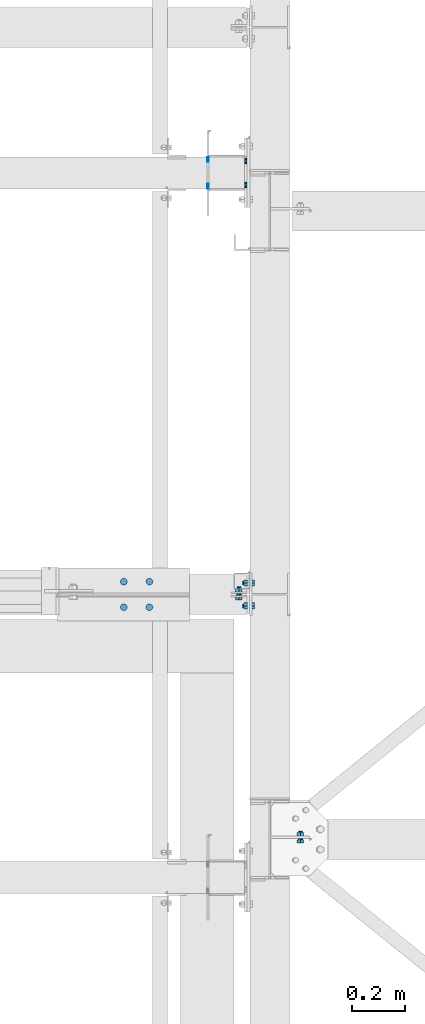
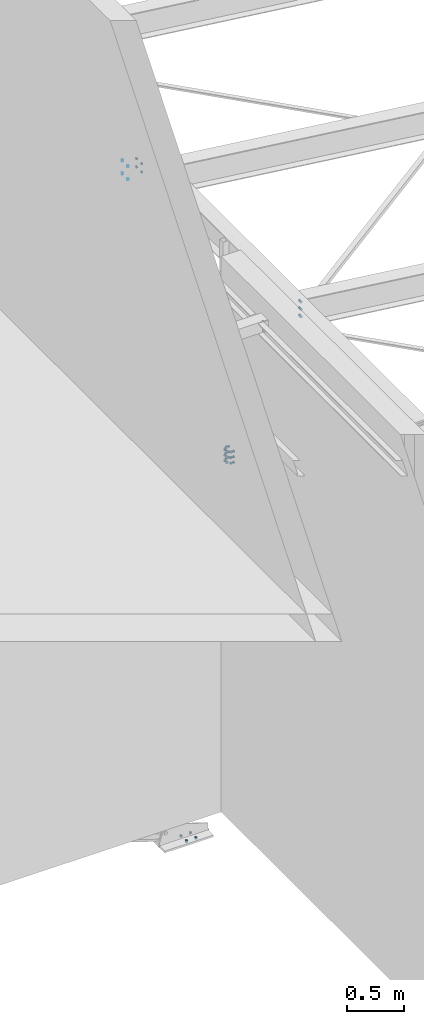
# One storey, part 33 of 3134: 7 mechanical fasteners, 5 elements without a shape of their own.
"""IFC2X3 building model written with IfcOpenShell, lengths in millimetres."""

from ifc_helpers import new_model, si_unit, frame, origin_with_axes, place, context, subcontext, project, spatial, faceted_brep, source, transform, mapped, material, type_object, element, aggregate, save


model = new_model("IFC2X3")

# Units and contexts
model_context = context("Model", 3, precision=1e-05, world=origin_with_axes())
body_context = subcontext(model_context, "Body", "Model", "MODEL_VIEW")
ifc_project = project(units=[si_unit("LENGTHUNIT", "METRE", prefix="MILLI"), si_unit("AREAUNIT", "SQUARE_METRE"), si_unit("VOLUMEUNIT", "CUBIC_METRE"), si_unit("MASSUNIT", "GRAM", prefix="KILO"), si_unit("TIMEUNIT", "SECOND"), si_unit("PLANEANGLEUNIT", "RADIAN"), si_unit("SOLIDANGLEUNIT", "STERADIAN"), si_unit("THERMODYNAMICTEMPERATUREUNIT", "DEGREE_CELSIUS"), si_unit("LUMINOUSINTENSITYUNIT", "LUMEN")], contexts=[model_context])

# Site, building, storey
site_placement = place(None, origin_with_axes())
site = spatial("IfcSite", under=ifc_project, at=site_placement, CompositionType="ELEMENT")
building_placement = place(site_placement, origin_with_axes())
building = spatial("IfcBuilding", under=site, at=building_placement, Name="Undefined", CompositionType="ELEMENT")
storey_placement = place(building_placement, origin_with_axes())
storey = spatial("IfcBuildingStorey", under=building, at=storey_placement, Name="Undefined", CompositionType="ELEMENT", Elevation=0.0)

# Assembly, mechanical fasteners
assembly_1_placement = place(storey_placement, origin_with_axes())
assembly_1 = element("IfcElementAssembly", 1, at=assembly_1_placement, inside=storey, AssemblyPlace="NOTDEFINED", PredefinedType="RIGID_FRAME")
ifc_material = material(Name="8.8")
mechanical_fastener_type = type_object("IfcMechanicalFastenerType", Name="Bolt assembly")
shared_shape_1 = source(origin_with_axes(), body_context, "Body", "Brep", [
    faceted_brep([(9.0, -3.46568413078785e-07, 0.0), (7.79422863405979, -3.46568413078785e-07, 4.50000000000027), (4.49999999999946, -3.46568413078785e-07, 7.79422863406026), (-9.3270238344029e-13, -3.46568413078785e-07, 9.0), (-4.50000000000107, -3.46568413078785e-07, 7.79422863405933), (-7.79422863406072, -3.46568413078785e-07, 4.49999999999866), (-9.0, -3.46568413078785e-07, -1.86540476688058e-12), (-7.79422863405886, -3.46568413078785e-07, -4.50000000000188), (-4.49999999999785, -3.46568413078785e-07, -7.79422863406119), (2.78811514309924e-12, -3.46568413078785e-07, -9.0), (4.50000000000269, -3.46568413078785e-07, -7.7942286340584), (7.79422863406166, -3.46568413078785e-07, -4.49999999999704), (7.79422863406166, 6.1, -4.49999999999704), (4.50000000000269, 6.1, -7.7942286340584), (2.78811514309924e-12, 6.1, -9.0), (-4.49999999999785, 6.1, -7.79422863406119), (-7.79422863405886, 6.1, -4.50000000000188), (-9.0, 6.1, -1.86540476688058e-12), (-7.79422863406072, 6.1, 4.49999999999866), (-4.50000000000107, 6.1, 7.79422863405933), (-9.3270238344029e-13, 6.1, 9.0), (4.49999999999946, 6.1, 7.79422863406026), (7.79422863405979, 6.1, 4.50000000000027), (9.0, 6.1, 0.0)], [[[0, 1, 2, 3, 4, 5, 6, 7, 8, 9, 10, 11]], [[12, 13, 14, 15, 16, 17, 18, 19, 20, 21, 22, 23]], [[0, 23, 22, 1]], [[1, 22, 21, 2]], [[2, 21, 20, 3]], [[3, 20, 19, 4]], [[4, 19, 18, 5]], [[5, 18, 17, 6]], [[6, 17, 16, 7]], [[7, 16, 15, 8]], [[8, 15, 14, 9]], [[9, 14, 13, 10]], [[10, 13, 12, 11]], [[11, 12, 23, 0]]]),
])
mechanical_fastener_1_placement = place(assembly_1_placement, frame((20615.0, 12563.5019072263, 5760.0), z_axis=(0.0, 0.0, 1.0), x_axis=(0.0, -1.0, 0.0)))
mechanical_fastener_1 = element("IfcMechanicalFastener", 2, at=mechanical_fastener_1_placement, type_object=mechanical_fastener_type, material=ifc_material, Name="Bolt assembly", NominalDiameter=16.0, NominalLength=6.0, context=body_context, shape_type="MappedRepresentation", body=[
    mapped(shared_shape_1, transform((0.0, 0.0, -70.0))),
    mapped(shared_shape_1, transform((100.0, 0.0, -70.0))),
    mapped(shared_shape_1, transform((0.0, 0.0, 70.0))),
    mapped(shared_shape_1, transform((100.0, 0.0, 70.0))),
])
shared_shape_2 = source(origin_with_axes(), body_context, "Body", "Brep", [
    faceted_brep([(11.0, 0.0, 0.0), (9.52627944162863, 0.0, 5.50000000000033), (5.49999999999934, 0.0, 9.5262794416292), (-1.13996957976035e-12, 0.0, 11.0), (-5.50000000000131, 0.0, 9.52627944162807), (-9.52627944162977, 0.0, 5.49999999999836), (-11.0, 0.0, -2.27993915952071e-12), (-9.5262794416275, 0.0, -5.5000000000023), (-5.49999999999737, 0.0, -9.52627944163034), (3.40769628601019e-12, 0.0, -11.0), (5.50000000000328, 0.0, -9.52627944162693), (9.52627944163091, 0.0, -5.49999999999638), (9.52627944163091, 10.1, -5.49999999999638), (5.50000000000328, 10.1, -9.52627944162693), (3.40769628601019e-12, 10.1, -11.0), (-5.49999999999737, 10.1, -9.52627944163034), (-9.5262794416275, 10.1, -5.5000000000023), (-11.0, 10.1, -2.27993915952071e-12), (-9.52627944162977, 10.1, 5.49999999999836), (-5.50000000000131, 10.1, 9.52627944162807), (-1.13996957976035e-12, 10.1, 11.0), (5.49999999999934, 10.1, 9.5262794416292), (9.52627944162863, 10.1, 5.50000000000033), (11.0, 10.1, 0.0)], [[[0, 1, 2, 3, 4, 5, 6, 7, 8, 9, 10, 11]], [[12, 13, 14, 15, 16, 17, 18, 19, 20, 21, 22, 23]], [[0, 23, 22, 1]], [[1, 22, 21, 2]], [[2, 21, 20, 3]], [[3, 20, 19, 4]], [[4, 19, 18, 5]], [[5, 18, 17, 6]], [[6, 17, 16, 7]], [[7, 16, 15, 8]], [[8, 15, 14, 9]], [[9, 14, 13, 10]], [[10, 13, 12, 11]], [[11, 12, 23, 0]]]),
])
mechanical_fastener_2_placement = place(assembly_1_placement, frame((20755.0, 12558.5019072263, 5760.0), z_axis=(0.0, 0.0, 1.0), x_axis=(0.0, -1.0, 0.0)))
mechanical_fastener_2 = element("IfcMechanicalFastener", 3, at=mechanical_fastener_2_placement, type_object=mechanical_fastener_type, material=ifc_material, Name="Bolt assembly", NominalDiameter=20.0, NominalLength=10.0, context=body_context, shape_type="MappedRepresentation", body=[
    mapped(shared_shape_2, transform((0.0, 0.0, -45.0))),
    mapped(shared_shape_2, transform((90.0, 0.0, -45.0))),
    mapped(shared_shape_2, transform((0.0, 0.0, 45.0))),
    mapped(shared_shape_2, transform((90.0, 0.0, 45.0))),
])
aggregate(assembly_1, [mechanical_fastener_1, mechanical_fastener_2])

# Assembly, mechanical fastener
assembly_2_placement = place(storey_placement, origin_with_axes())
assembly_2 = element("IfcElementAssembly", 4, at=assembly_2_placement, inside=storey, Name="300", AssemblyPlace="NOTDEFINED", PredefinedType="RIGID_FRAME")
shared_shape_3 = source(origin_with_axes(), body_context, "Body", "Brep", [
    faceted_brep([(13.856406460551, -13.0499999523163, 0.0), (6.92820323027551, -13.0499999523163, 12.0), (-6.92820323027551, -13.0499999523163, 12.0), (-13.856406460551, -13.0499999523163, 1.69692038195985e-15), (-6.92820323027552, -13.0499999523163, -12.0), (6.9282032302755, -13.0499999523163, -12.0), (6.9282032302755, -3.04999995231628, -12.0), (-6.92820323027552, -3.04999995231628, -12.0), (-13.856406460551, -3.04999995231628, 1.69692038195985e-15), (-6.92820323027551, -3.04999995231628, 12.0), (6.92820323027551, -3.04999995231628, 12.0), (13.856406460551, -3.04999995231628, 0.0), (8.0, -3.04999995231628, 0.0), (6.92820323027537, -3.04999995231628, 4.00000000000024), (3.99999999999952, -3.04999995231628, 6.92820323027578), (-8.29068785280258e-13, -3.04999995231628, 8.0), (-4.00000000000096, -3.04999995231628, 6.92820323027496), (-6.9282032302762, -3.04999995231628, 3.99999999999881), (-8.0, -3.04999995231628, -1.65813757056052e-12), (-6.92820323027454, -3.04999995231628, -4.00000000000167), (-3.99999999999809, -3.04999995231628, -6.92820323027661), (2.47832457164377e-12, -3.04999995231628, -8.0), (4.00000000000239, -3.04999995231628, -6.92820323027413), (6.92820323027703, -3.04999995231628, -3.99999999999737), (6.92820323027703, 31.9500000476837, -3.99999999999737), (4.00000000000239, 31.9500000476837, -6.92820323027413), (2.47832457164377e-12, 31.9500000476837, -8.0), (-3.99999999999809, 31.9500000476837, -6.92820323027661), (-6.92820323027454, 31.9500000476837, -4.00000000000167), (-8.0, 31.9500000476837, -1.65813757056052e-12), (-6.9282032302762, 31.9500000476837, 3.99999999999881), (-4.00000000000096, 31.9500000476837, 6.92820323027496), (-8.29068785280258e-13, 31.9500000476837, 8.0), (3.99999999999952, 31.9500000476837, 6.92820323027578), (6.92820323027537, 31.9500000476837, 4.00000000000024), (8.0, 31.9500000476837, 0.0), (13.856406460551, 13.0500000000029, 0.0), (6.92820323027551, 13.0500000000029, 12.0), (-6.92820323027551, 13.0500000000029, 12.0), (-13.856406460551, 13.0500000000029, 1.69692038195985e-15), (-6.92820323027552, 13.0500000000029, -12.0), (6.9282032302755, 13.0500000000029, -12.0), (6.9282032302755, 26.0500000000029, -12.0), (-6.92820323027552, 26.0500000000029, -12.0), (-13.856406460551, 26.0500000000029, 1.69692038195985e-15), (-6.92820323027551, 26.0500000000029, 12.0), (6.92820323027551, 26.0500000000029, 12.0), (13.856406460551, 26.0500000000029, 0.0)], [[[0, 1, 2, 3, 4, 5]], [[6, 7, 8, 9, 10, 11]], [[0, 11, 10, 1]], [[1, 10, 9, 2]], [[2, 9, 8, 3]], [[3, 8, 7, 4]], [[4, 7, 6, 5]], [[5, 6, 11, 0]], [[12, 13, 14, 15, 16, 17, 18, 19, 20, 21, 22, 23]], [[24, 25, 26, 27, 28, 29, 30, 31, 32, 33, 34, 35]], [[12, 35, 34, 13]], [[13, 34, 33, 14]], [[14, 33, 32, 15]], [[15, 32, 31, 16]], [[16, 31, 30, 17]], [[17, 30, 29, 18]], [[18, 29, 28, 19]], [[19, 28, 27, 20]], [[20, 27, 26, 21]], [[21, 26, 25, 22]], [[22, 25, 24, 23]], [[23, 24, 35, 12]], [[36, 37, 38, 39, 40, 41]], [[42, 43, 44, 45, 46, 47]], [[36, 47, 46, 37]], [[37, 46, 45, 38]], [[38, 45, 44, 39]], [[39, 44, 43, 40]], [[40, 43, 42, 41]], [[41, 42, 47, 36]]]),
    faceted_brep([(9.0, 2.95000000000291, 0.0), (7.79422863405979, 2.95000000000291, 4.50000000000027), (4.49999999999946, 2.95000000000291, 7.79422863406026), (-9.3270238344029e-13, 2.95000000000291, 9.0), (-4.50000000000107, 2.95000000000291, 7.79422863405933), (-7.79422863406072, 2.95000000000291, 4.49999999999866), (-9.0, 2.95000000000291, -1.86540476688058e-12), (-7.79422863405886, 2.95000000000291, -4.50000000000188), (-4.49999999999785, 2.95000000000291, -7.79422863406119), (2.78811514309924e-12, 2.95000000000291, -9.0), (4.50000000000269, 2.95000000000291, -7.7942286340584), (7.79422863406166, 2.95000000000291, -4.49999999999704), (7.79422863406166, 13.0500000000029, -4.49999999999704), (4.50000000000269, 13.0500000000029, -7.7942286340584), (2.78811514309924e-12, 13.0500000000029, -9.0), (-4.49999999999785, 13.0500000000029, -7.79422863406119), (-7.79422863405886, 13.0500000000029, -4.50000000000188), (-9.0, 13.0500000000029, -1.86540476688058e-12), (-7.79422863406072, 13.0500000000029, 4.49999999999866), (-4.50000000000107, 13.0500000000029, 7.79422863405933), (-9.3270238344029e-13, 13.0500000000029, 9.0), (4.49999999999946, 13.0500000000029, 7.79422863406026), (7.79422863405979, 13.0500000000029, 4.50000000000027), (9.0, 13.0500000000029, 0.0), (9.0, -2.94999995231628, 0.0), (7.79422863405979, -2.94999995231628, 4.50000000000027), (4.49999999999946, -2.94999995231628, 7.79422863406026), (-9.3270238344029e-13, -2.94999995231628, 9.0), (-4.50000000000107, -2.94999995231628, 7.79422863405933), (-7.79422863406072, -2.94999995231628, 4.49999999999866), (-9.0, -2.94999995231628, -1.86540476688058e-12), (-7.79422863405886, -2.94999995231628, -4.50000000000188), (-4.49999999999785, -2.94999995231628, -7.79422863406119), (2.78811514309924e-12, -2.94999995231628, -9.0), (4.50000000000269, -2.94999995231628, -7.7942286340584), (7.79422863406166, -2.94999995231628, -4.49999999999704), (7.79422863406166, 3.14999995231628, -4.49999999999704), (4.50000000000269, 3.14999995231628, -7.7942286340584), (2.78811514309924e-12, 3.14999995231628, -9.0), (-4.49999999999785, 3.14999995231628, -7.79422863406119), (-7.79422863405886, 3.14999995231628, -4.50000000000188), (-9.0, 3.14999995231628, -1.86540476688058e-12), (-7.79422863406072, 3.14999995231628, 4.49999999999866), (-4.50000000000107, 3.14999995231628, 7.79422863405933), (-9.3270238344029e-13, 3.14999995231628, 9.0), (4.49999999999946, 3.14999995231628, 7.79422863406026), (7.79422863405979, 3.14999995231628, 4.50000000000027), (9.0, 3.14999995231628, 0.0)], [[[0, 1, 2, 3, 4, 5, 6, 7, 8, 9, 10, 11]], [[12, 13, 14, 15, 16, 17, 18, 19, 20, 21, 22, 23]], [[0, 23, 22, 1]], [[1, 22, 21, 2]], [[2, 21, 20, 3]], [[3, 20, 19, 4]], [[4, 19, 18, 5]], [[5, 18, 17, 6]], [[6, 17, 16, 7]], [[7, 16, 15, 8]], [[8, 15, 14, 9]], [[9, 14, 13, 10]], [[10, 13, 12, 11]], [[11, 12, 23, 0]], [[24, 25, 26, 27, 28, 29, 30, 31, 32, 33, 34, 35]], [[36, 37, 38, 39, 40, 41, 42, 43, 44, 45, 46, 47]], [[24, 47, 46, 25]], [[25, 46, 45, 26]], [[26, 45, 44, 27]], [[27, 44, 43, 28]], [[28, 43, 42, 29]], [[29, 42, 41, 30]], [[30, 41, 40, 31]], [[31, 40, 39, 32]], [[32, 39, 38, 33]], [[33, 38, 37, 34]], [[34, 37, 36, 35]], [[35, 36, 47, 24]]]),
])
mechanical_fastener_3_placement = place(assembly_2_placement, frame((20965.0, 10010.0, 5735.35014950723), z_axis=(1.0, 0.0, 0.0), x_axis=(0.0, 0.0, -1.0)))
mechanical_fastener_3 = element("IfcMechanicalFastener", 5, at=mechanical_fastener_3_placement, type_object=mechanical_fastener_type, material=ifc_material, Name="Bolt assembly", NominalDiameter=16.0, NominalLength=35.0, context=body_context, shape_type="MappedRepresentation", body=[
    mapped(shared_shape_3, transform((0.0, 0.0, 0.0))),
    mapped(shared_shape_3, transform((80.0, 0.0, 0.0))),
    mapped(shared_shape_3, transform((160.0, 0.0, 0.0))),
])
aggregate(assembly_2, [mechanical_fastener_3])

assembly_3_placement = place(storey_placement, origin_with_axes())
assembly_3 = element("IfcElementAssembly", 6, at=assembly_3_placement, inside=storey, AssemblyPlace="NOTDEFINED", PredefinedType="RIGID_FRAME")
shared_shape_4 = source(origin_with_axes(), body_context, "Body", "Brep", [
    faceted_brep([(13.0, -19.9999999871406, 0.0), (11.2583302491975, -19.9999999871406, 6.50000000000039), (6.49999999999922, -19.9999999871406, 11.2583302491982), (-1.34723677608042e-12, -19.9999999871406, 13.0), (-6.50000000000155, -19.9999999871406, 11.2583302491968), (-11.2583302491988, -19.9999999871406, 6.49999999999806), (-13.0, -19.9999999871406, -2.69447355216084e-12), (-11.2583302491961, -19.9999999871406, -6.50000000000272), (-6.4999999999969, -19.9999999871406, -11.2583302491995), (4.02727742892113e-12, -19.9999999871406, -13.0), (6.50000000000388, -19.9999999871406, -11.2583302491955), (11.2583302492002, -19.9999999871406, -6.49999999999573), (11.2583302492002, 0.100000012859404, -6.49999999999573), (6.50000000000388, 0.100000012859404, -11.2583302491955), (4.02727742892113e-12, 0.100000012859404, -13.0), (-6.4999999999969, 0.100000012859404, -11.2583302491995), (-11.2583302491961, 0.100000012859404, -6.50000000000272), (-13.0, 0.100000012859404, -2.69447355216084e-12), (-11.2583302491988, 0.100000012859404, 6.49999999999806), (-6.50000000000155, 0.100000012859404, 11.2583302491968), (-1.34723677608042e-12, 0.100000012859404, 13.0), (6.49999999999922, 0.100000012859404, 11.2583302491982), (11.2583302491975, 0.100000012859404, 6.50000000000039), (13.0, 0.100000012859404, 0.0)], [[[0, 1, 2, 3, 4, 5, 6, 7, 8, 9, 10, 11]], [[12, 13, 14, 15, 16, 17, 18, 19, 20, 21, 22, 23]], [[0, 23, 22, 1]], [[1, 22, 21, 2]], [[2, 21, 20, 3]], [[3, 20, 19, 4]], [[4, 19, 18, 5]], [[5, 18, 17, 6]], [[6, 17, 16, 7]], [[7, 16, 15, 8]], [[8, 15, 14, 9]], [[9, 14, 13, 10]], [[10, 13, 12, 11]], [[11, 12, 23, 0]]]),
])
mechanical_fastener_4_placement = place(assembly_3_placement, frame((20302.0000000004, 10930.0, -400.000000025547), z_axis=(0.0, 1.0, 0.0), x_axis=(1.0, 0.0, 0.0)))
mechanical_fastener_4 = element("IfcMechanicalFastener", 7, at=mechanical_fastener_4_placement, type_object=mechanical_fastener_type, material=ifc_material, Name="Bolt assembly", NominalDiameter=24.0, NominalLength=20.0, context=body_context, shape_type="MappedRepresentation", body=[
    mapped(shared_shape_4, transform((0.0, 0.0, -48.0))),
    mapped(shared_shape_4, transform((96.0, 0.0, -48.0))),
    mapped(shared_shape_4, transform((0.0, 0.0, 48.0))),
    mapped(shared_shape_4, transform((96.0, 0.0, 48.0))),
])
aggregate(assembly_3, [mechanical_fastener_4])

# Assembly, mechanical fasteners
assembly_4_placement = place(storey_placement, origin_with_axes())
assembly_4 = element("IfcElementAssembly", 8, at=assembly_4_placement, inside=storey, AssemblyPlace="NOTDEFINED", PredefinedType="RIGID_FRAME")
shared_shape_5 = source(origin_with_axes(), body_context, "Body", "Brep", [
    faceted_brep([(13.856406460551, -20.0400000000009, 0.0), (6.92820323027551, -20.0400000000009, 12.0), (-6.92820323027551, -20.0400000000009, 12.0), (-13.856406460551, -20.0400000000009, 1.69692038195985e-15), (-6.92820323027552, -20.0400000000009, -12.0), (6.9282032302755, -20.0400000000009, -12.0), (6.9282032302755, -10.0400000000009, -12.0), (-6.92820323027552, -10.0400000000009, -12.0), (-13.856406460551, -10.0400000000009, 1.69692038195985e-15), (-6.92820323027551, -10.0400000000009, 12.0), (6.92820323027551, -10.0400000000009, 12.0), (13.856406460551, -10.0400000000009, 0.0), (8.0, -10.0400000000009, 0.0), (6.92820323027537, -10.0400000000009, 4.00000000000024), (3.99999999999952, -10.0400000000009, 6.92820323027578), (-8.29068785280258e-13, -10.0400000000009, 8.0), (-4.00000000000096, -10.0400000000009, 6.92820323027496), (-6.9282032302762, -10.0400000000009, 3.99999999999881), (-8.0, -10.0400000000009, -1.65813757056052e-12), (-6.92820323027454, -10.0400000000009, -4.00000000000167), (-3.99999999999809, -10.0400000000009, -6.92820323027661), (2.47832457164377e-12, -10.0400000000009, -8.0), (4.00000000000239, -10.0400000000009, -6.92820323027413), (6.92820323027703, -10.0400000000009, -3.99999999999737), (6.92820323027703, 29.9599999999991, -3.99999999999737), (4.00000000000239, 29.9599999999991, -6.92820323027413), (2.47832457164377e-12, 29.9599999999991, -8.0), (-3.99999999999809, 29.9599999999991, -6.92820323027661), (-6.92820323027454, 29.9599999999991, -4.00000000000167), (-8.0, 29.9599999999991, -1.65813757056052e-12), (-6.9282032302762, 29.9599999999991, 3.99999999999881), (-4.00000000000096, 29.9599999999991, 6.92820323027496), (-8.29068785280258e-13, 29.9599999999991, 8.0), (3.99999999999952, 29.9599999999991, 6.92820323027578), (6.92820323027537, 29.9599999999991, 4.00000000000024), (8.0, 29.9599999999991, 0.0), (13.856406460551, 10.0400000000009, 0.0), (6.92820323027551, 10.0400000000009, 12.0), (-6.92820323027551, 10.0400000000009, 12.0), (-13.856406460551, 10.0400000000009, 1.69692038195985e-15), (-6.92820323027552, 10.0400000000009, -12.0), (6.9282032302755, 10.0400000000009, -12.0), (6.9282032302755, 23.0400000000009, -12.0), (-6.92820323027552, 23.0400000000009, -12.0), (-13.856406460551, 23.0400000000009, 1.69692038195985e-15), (-6.92820323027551, 23.0400000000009, 12.0), (6.92820323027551, 23.0400000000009, 12.0), (13.856406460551, 23.0400000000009, 0.0)], [[[0, 1, 2, 3, 4, 5]], [[6, 7, 8, 9, 10, 11]], [[0, 11, 10, 1]], [[1, 10, 9, 2]], [[2, 9, 8, 3]], [[3, 8, 7, 4]], [[4, 7, 6, 5]], [[5, 6, 11, 0]], [[12, 13, 14, 15, 16, 17, 18, 19, 20, 21, 22, 23]], [[24, 25, 26, 27, 28, 29, 30, 31, 32, 33, 34, 35]], [[12, 35, 34, 13]], [[13, 34, 33, 14]], [[14, 33, 32, 15]], [[15, 32, 31, 16]], [[16, 31, 30, 17]], [[17, 30, 29, 18]], [[18, 29, 28, 19]], [[19, 28, 27, 20]], [[20, 27, 26, 21]], [[21, 26, 25, 22]], [[22, 25, 24, 23]], [[23, 24, 35, 12]], [[36, 37, 38, 39, 40, 41]], [[42, 43, 44, 45, 46, 47]], [[36, 47, 46, 37]], [[37, 46, 45, 38]], [[38, 45, 44, 39]], [[39, 44, 43, 40]], [[40, 43, 42, 41]], [[41, 42, 47, 36]]]),
    faceted_brep([(9.0, -3.04999995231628, 0.0), (7.79422863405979, -3.04999995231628, 4.50000000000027), (4.49999999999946, -3.04999995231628, 7.79422863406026), (-9.3270238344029e-13, -3.04999995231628, 9.0), (-4.50000000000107, -3.04999995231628, 7.79422863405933), (-7.79422863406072, -3.04999995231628, 4.49999999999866), (-9.0, -3.04999995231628, -1.86540476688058e-12), (-7.79422863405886, -3.04999995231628, -4.50000000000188), (-4.49999999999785, -3.04999995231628, -7.79422863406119), (2.78811514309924e-12, -3.04999995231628, -9.0), (4.50000000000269, -3.04999995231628, -7.7942286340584), (7.79422863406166, -3.04999995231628, -4.49999999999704), (7.79422863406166, 3.04999995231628, -4.49999999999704), (4.50000000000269, 3.04999995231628, -7.7942286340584), (2.78811514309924e-12, 3.04999995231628, -9.0), (-4.49999999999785, 3.04999995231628, -7.79422863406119), (-7.79422863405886, 3.04999995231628, -4.50000000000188), (-9.0, 3.04999995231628, -1.86540476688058e-12), (-7.79422863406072, 3.04999995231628, 4.49999999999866), (-4.50000000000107, 3.04999995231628, 7.79422863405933), (-9.3270238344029e-13, 3.04999995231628, 9.0), (4.49999999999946, 3.04999995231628, 7.79422863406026), (7.79422863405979, 3.04999995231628, 4.50000000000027), (9.0, 3.04999995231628, 0.0), (9.0, -9.94000000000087, 0.0), (7.79422863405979, -9.94000000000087, 4.50000000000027), (4.49999999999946, -9.94000000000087, 7.79422863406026), (-9.3270238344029e-13, -9.94000000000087, 9.0), (-4.50000000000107, -9.94000000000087, 7.79422863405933), (-7.79422863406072, -9.94000000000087, 4.49999999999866), (-9.0, -9.94000000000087, -1.86540476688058e-12), (-7.79422863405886, -9.94000000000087, -4.50000000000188), (-4.49999999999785, -9.94000000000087, -7.79422863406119), (2.78811514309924e-12, -9.94000000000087, -9.0), (4.50000000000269, -9.94000000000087, -7.7942286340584), (7.79422863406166, -9.94000000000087, -4.49999999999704), (7.79422863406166, -2.94000000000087, -4.49999999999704), (4.50000000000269, -2.94000000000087, -7.7942286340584), (2.78811514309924e-12, -2.94000000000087, -9.0), (-4.49999999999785, -2.94000000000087, -7.79422863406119), (-7.79422863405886, -2.94000000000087, -4.50000000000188), (-9.0, -2.94000000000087, -1.86540476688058e-12), (-7.79422863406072, -2.94000000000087, 4.49999999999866), (-4.50000000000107, -2.94000000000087, 7.79422863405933), (-9.3270238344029e-13, -2.94000000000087, 9.0), (4.49999999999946, -2.94000000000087, 7.79422863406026), (7.79422863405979, -2.94000000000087, 4.50000000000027), (9.0, -2.94000000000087, 0.0), (9.0, 2.94000000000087, 0.0), (7.79422863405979, 2.94000000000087, 4.50000000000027), (4.49999999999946, 2.94000000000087, 7.79422863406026), (-9.3270238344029e-13, 2.94000000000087, 9.0), (-4.50000000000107, 2.94000000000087, 7.79422863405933), (-7.79422863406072, 2.94000000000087, 4.49999999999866), (-9.0, 2.94000000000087, -1.86540476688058e-12), (-7.79422863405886, 2.94000000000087, -4.50000000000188), (-4.49999999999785, 2.94000000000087, -7.79422863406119), (2.78811514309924e-12, 2.94000000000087, -9.0), (4.50000000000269, 2.94000000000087, -7.7942286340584), (7.79422863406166, 2.94000000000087, -4.49999999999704), (7.79422863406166, 10.0400000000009, -4.49999999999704), (4.50000000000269, 10.0400000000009, -7.7942286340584), (2.78811514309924e-12, 10.0400000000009, -9.0), (-4.49999999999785, 10.0400000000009, -7.79422863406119), (-7.79422863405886, 10.0400000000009, -4.50000000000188), (-9.0, 10.0400000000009, -1.86540476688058e-12), (-7.79422863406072, 10.0400000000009, 4.49999999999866), (-4.50000000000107, 10.0400000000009, 7.79422863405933), (-9.3270238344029e-13, 10.0400000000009, 9.0), (4.49999999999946, 10.0400000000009, 7.79422863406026), (7.79422863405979, 10.0400000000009, 4.50000000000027), (9.0, 10.0400000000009, 0.0)], [[[0, 1, 2, 3, 4, 5, 6, 7, 8, 9, 10, 11]], [[12, 13, 14, 15, 16, 17, 18, 19, 20, 21, 22, 23]], [[0, 23, 22, 1]], [[1, 22, 21, 2]], [[2, 21, 20, 3]], [[3, 20, 19, 4]], [[4, 19, 18, 5]], [[5, 18, 17, 6]], [[6, 17, 16, 7]], [[7, 16, 15, 8]], [[8, 15, 14, 9]], [[9, 14, 13, 10]], [[10, 13, 12, 11]], [[11, 12, 23, 0]], [[24, 25, 26, 27, 28, 29, 30, 31, 32, 33, 34, 35]], [[36, 37, 38, 39, 40, 41, 42, 43, 44, 45, 46, 47]], [[24, 47, 46, 25]], [[25, 46, 45, 26]], [[26, 45, 44, 27]], [[27, 44, 43, 28]], [[28, 43, 42, 29]], [[29, 42, 41, 30]], [[30, 41, 40, 31]], [[31, 40, 39, 32]], [[32, 39, 38, 33]], [[33, 38, 37, 34]], [[34, 37, 36, 35]], [[35, 36, 47, 24]], [[48, 49, 50, 51, 52, 53, 54, 55, 56, 57, 58, 59]], [[60, 61, 62, 63, 64, 65, 66, 67, 68, 69, 70, 71]], [[48, 71, 70, 49]], [[49, 70, 69, 50]], [[50, 69, 68, 51]], [[51, 68, 67, 52]], [[52, 67, 66, 53]], [[53, 66, 65, 54]], [[54, 65, 64, 55]], [[55, 64, 63, 56]], [[56, 63, 62, 57]], [[57, 62, 61, 58]], [[58, 61, 60, 59]], [[59, 60, 71, 48]]]),
])
mechanical_fastener_5_placement = place(assembly_4_placement, frame((20734.0000000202, 10930.0, 3648.83272487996), z_axis=(1.0, 0.0, 0.0), x_axis=(0.0, 0.0, -1.0)))
mechanical_fastener_5 = element("IfcMechanicalFastener", 9, at=mechanical_fastener_5_placement, type_object=mechanical_fastener_type, material=ifc_material, Name="Bolt assembly", NominalDiameter=16.0, NominalLength=40.0, context=body_context, shape_type="MappedRepresentation", body=[
    mapped(shared_shape_5, transform((0.0, 0.0, 0.0))),
    mapped(shared_shape_5, transform((59.9999999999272, 0.0, 5.40239852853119e-10))),
    mapped(shared_shape_5, transform((120.0, 0.0, 0.0))),
])
shared_shape_6 = source(origin_with_axes(), body_context, "Body", "Brep", [
    faceted_brep([(13.856406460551, -19.0, 0.0), (6.92820323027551, -19.0, 12.0), (-6.92820323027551, -19.0, 12.0), (-13.856406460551, -19.0, 1.69692038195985e-15), (-6.92820323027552, -19.0, -12.0), (6.9282032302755, -19.0, -12.0), (6.9282032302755, -9.0, -12.0), (-6.92820323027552, -9.0, -12.0), (-13.856406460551, -9.0, 1.69692038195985e-15), (-6.92820323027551, -9.0, 12.0), (6.92820323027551, -9.0, 12.0), (13.856406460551, -9.0, 0.0), (8.0, -9.0, 0.0), (6.92820323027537, -9.0, 4.00000000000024), (3.99999999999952, -9.0, 6.92820323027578), (-8.29068785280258e-13, -9.0, 8.0), (-4.00000000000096, -9.0, 6.92820323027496), (-6.9282032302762, -9.0, 3.99999999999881), (-8.0, -9.0, -1.65813757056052e-12), (-6.92820323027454, -9.0, -4.00000000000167), (-3.99999999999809, -9.0, -6.92820323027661), (2.47832457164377e-12, -9.0, -8.0), (4.00000000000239, -9.0, -6.92820323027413), (6.92820323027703, -9.0, -3.99999999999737), (6.92820323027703, 26.0, -3.99999999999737), (4.00000000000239, 26.0, -6.92820323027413), (2.47832457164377e-12, 26.0, -8.0), (-3.99999999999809, 26.0, -6.92820323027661), (-6.92820323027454, 26.0, -4.00000000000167), (-8.0, 26.0, -1.65813757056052e-12), (-6.9282032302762, 26.0, 3.99999999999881), (-4.00000000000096, 26.0, 6.92820323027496), (-8.29068785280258e-13, 26.0, 8.0), (3.99999999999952, 26.0, 6.92820323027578), (6.92820323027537, 26.0, 4.00000000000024), (8.0, 26.0, 0.0), (13.856406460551, 7.0, 0.0), (6.92820323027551, 7.0, 12.0), (-6.92820323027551, 7.0, 12.0), (-13.856406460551, 7.0, 1.69692038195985e-15), (-6.92820323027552, 7.0, -12.0), (6.9282032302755, 7.0, -12.0), (6.9282032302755, 20.0, -12.0), (-6.92820323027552, 20.0, -12.0), (-13.856406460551, 20.0, 1.69692038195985e-15), (-6.92820323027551, 20.0, 12.0), (6.92820323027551, 20.0, 12.0), (13.856406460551, 20.0, 0.0)], [[[0, 1, 2, 3, 4, 5]], [[6, 7, 8, 9, 10, 11]], [[0, 11, 10, 1]], [[1, 10, 9, 2]], [[2, 9, 8, 3]], [[3, 8, 7, 4]], [[4, 7, 6, 5]], [[5, 6, 11, 0]], [[12, 13, 14, 15, 16, 17, 18, 19, 20, 21, 22, 23]], [[24, 25, 26, 27, 28, 29, 30, 31, 32, 33, 34, 35]], [[12, 35, 34, 13]], [[13, 34, 33, 14]], [[14, 33, 32, 15]], [[15, 32, 31, 16]], [[16, 31, 30, 17]], [[17, 30, 29, 18]], [[18, 29, 28, 19]], [[19, 28, 27, 20]], [[20, 27, 26, 21]], [[21, 26, 25, 22]], [[22, 25, 24, 23]], [[23, 24, 35, 12]], [[36, 37, 38, 39, 40, 41]], [[42, 43, 44, 45, 46, 47]], [[36, 47, 46, 37]], [[37, 46, 45, 38]], [[38, 45, 44, 39]], [[39, 44, 43, 40]], [[40, 43, 42, 41]], [[41, 42, 47, 36]]]),
    faceted_brep([(9.0, -8.9, 0.0), (7.79422863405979, -8.9, 4.50000000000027), (4.49999999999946, -8.9, 7.79422863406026), (-9.3270238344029e-13, -8.9, 9.0), (-4.50000000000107, -8.9, 7.79422863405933), (-7.79422863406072, -8.9, 4.49999999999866), (-9.0, -8.9, -1.86540476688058e-12), (-7.79422863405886, -8.9, -4.50000000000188), (-4.49999999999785, -8.9, -7.79422863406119), (2.78811514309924e-12, -8.9, -9.0), (4.50000000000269, -8.9, -7.7942286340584), (7.79422863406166, -8.9, -4.49999999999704), (7.79422863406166, 0.100000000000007, -4.49999999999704), (4.50000000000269, 0.100000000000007, -7.7942286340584), (2.78811514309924e-12, 0.100000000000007, -9.0), (-4.49999999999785, 0.100000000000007, -7.79422863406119), (-7.79422863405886, 0.100000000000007, -4.50000000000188), (-9.0, 0.100000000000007, -1.86540476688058e-12), (-7.79422863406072, 0.100000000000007, 4.49999999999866), (-4.50000000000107, 0.100000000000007, 7.79422863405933), (-9.3270238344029e-13, 0.100000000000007, 9.0), (4.49999999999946, 0.100000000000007, 7.79422863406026), (7.79422863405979, 0.100000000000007, 4.50000000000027), (9.0, 0.100000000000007, 0.0), (9.0, -0.1, 0.0), (7.79422863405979, -0.1, 4.50000000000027), (4.49999999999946, -0.1, 7.79422863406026), (-9.3270238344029e-13, -0.1, 9.0), (-4.50000000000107, -0.1, 7.79422863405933), (-7.79422863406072, -0.1, 4.49999999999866), (-9.0, -0.1, -1.86540476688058e-12), (-7.79422863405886, -0.1, -4.50000000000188), (-4.49999999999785, -0.1, -7.79422863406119), (2.78811514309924e-12, -0.1, -9.0), (4.50000000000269, -0.1, -7.7942286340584), (7.79422863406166, -0.1, -4.49999999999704), (7.79422863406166, 7.0, -4.49999999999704), (4.50000000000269, 7.0, -7.7942286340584), (2.78811514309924e-12, 7.0, -9.0), (-4.49999999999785, 7.0, -7.79422863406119), (-7.79422863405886, 7.0, -4.50000000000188), (-9.0, 7.0, -1.86540476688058e-12), (-7.79422863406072, 7.0, 4.49999999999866), (-4.50000000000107, 7.0, 7.79422863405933), (-9.3270238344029e-13, 7.0, 9.0), (4.49999999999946, 7.0, 7.79422863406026), (7.79422863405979, 7.0, 4.50000000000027), (9.0, 7.0, 0.0)], [[[0, 1, 2, 3, 4, 5, 6, 7, 8, 9, 10, 11]], [[12, 13, 14, 15, 16, 17, 18, 19, 20, 21, 22, 23]], [[0, 23, 22, 1]], [[1, 22, 21, 2]], [[2, 21, 20, 3]], [[3, 20, 19, 4]], [[4, 19, 18, 5]], [[5, 18, 17, 6]], [[6, 17, 16, 7]], [[7, 16, 15, 8]], [[8, 15, 14, 9]], [[9, 14, 13, 10]], [[10, 13, 12, 11]], [[11, 12, 23, 0]], [[24, 25, 26, 27, 28, 29, 30, 31, 32, 33, 34, 35]], [[36, 37, 38, 39, 40, 41, 42, 43, 44, 45, 46, 47]], [[24, 47, 46, 25]], [[25, 46, 45, 26]], [[26, 45, 44, 27]], [[27, 44, 43, 28]], [[28, 43, 42, 29]], [[29, 42, 41, 30]], [[30, 41, 40, 31]], [[31, 40, 39, 32]], [[32, 39, 38, 33]], [[33, 38, 37, 34]], [[34, 37, 36, 35]], [[35, 36, 47, 24]]]),
])
mechanical_fastener_6_placement = place(assembly_4_placement, frame((20774.0000000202, 10886.96, 3648.83272487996), z_axis=(0.0, 1.0, 0.0), x_axis=(0.0, 0.0, -1.0)))
mechanical_fastener_6 = element("IfcMechanicalFastener", 10, at=mechanical_fastener_6_placement, type_object=mechanical_fastener_type, material=ifc_material, Name="Bolt assembly", NominalDiameter=16.0, NominalLength=35.0, context=body_context, shape_type="MappedRepresentation", body=[
    mapped(shared_shape_6, transform((0.0, 0.0, 0.0))),
    mapped(shared_shape_6, transform((59.9999999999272, 0.0, 5.40239852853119e-10))),
    mapped(shared_shape_6, transform((120.0, 0.0, 0.0))),
])
aggregate(assembly_4, [mechanical_fastener_5, mechanical_fastener_6])

# Assembly, mechanical fastener
assembly_5_placement = place(storey_placement, origin_with_axes())
assembly_5 = element("IfcElementAssembly", 11, at=assembly_5_placement, inside=storey, AssemblyPlace="NOTDEFINED", PredefinedType="RIGID_FRAME")
mechanical_fastener_7_placement = place(assembly_5_placement, frame((20774.0000000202, 10973.04, 3648.83272487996), z_axis=(0.0, 1.0, 0.0), x_axis=(0.0, 0.0, -1.0)))
mechanical_fastener_7 = element("IfcMechanicalFastener", 12, at=mechanical_fastener_7_placement, type_object=mechanical_fastener_type, material=ifc_material, Name="Bolt assembly", NominalDiameter=16.0, NominalLength=35.0, context=body_context, shape_type="MappedRepresentation", body=[
    mapped(shared_shape_6, transform((0.0, 0.0, 0.0))),
    mapped(shared_shape_6, transform((59.9999999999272, 0.0, 5.40239852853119e-10))),
    mapped(shared_shape_6, transform((120.0, 0.0, 0.0))),
])
aggregate(assembly_5, [mechanical_fastener_7])

save(model, "model.ifc")
